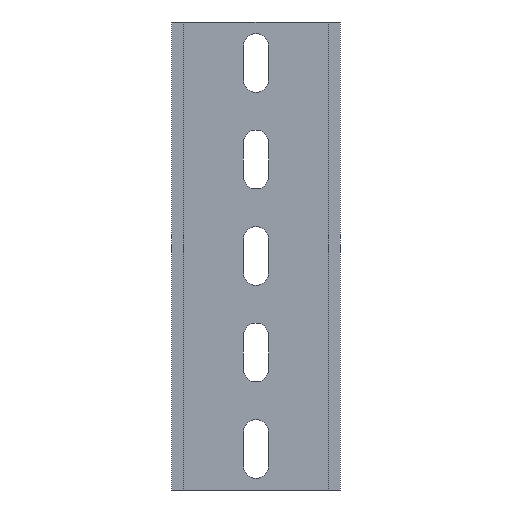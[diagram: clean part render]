
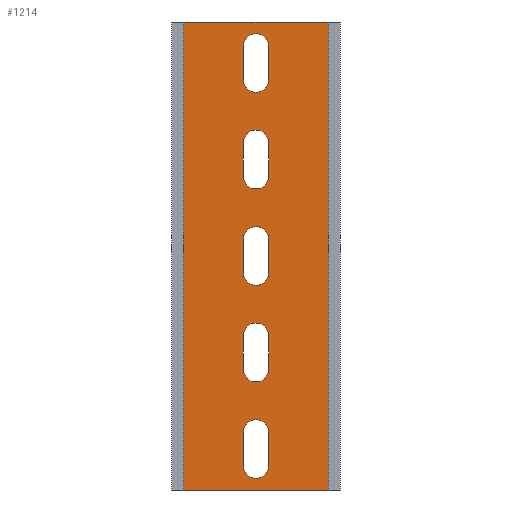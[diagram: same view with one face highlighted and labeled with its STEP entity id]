
A CAD part, front view. The second image highlights one B-rep face of the part: STEP entity #1214.
In plain terms, the highlighted planar face has unit normal (0, -1, 0).
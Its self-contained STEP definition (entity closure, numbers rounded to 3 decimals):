
#20=FACE_BOUND('',#174,.T.);
#21=FACE_BOUND('',#175,.T.);
#22=FACE_BOUND('',#176,.T.);
#23=FACE_BOUND('',#177,.T.);
#24=FACE_BOUND('',#178,.T.);
#25=CIRCLE('',#1258,2.6);
#27=CIRCLE('',#1262,2.6);
#29=CIRCLE('',#1266,2.6);
#31=CIRCLE('',#1270,2.6);
#33=CIRCLE('',#1274,2.6);
#35=CIRCLE('',#1278,2.6);
#41=CIRCLE('',#1287,2.6);
#43=CIRCLE('',#1291,2.6);
#45=CIRCLE('',#1295,2.6);
#47=CIRCLE('',#1299,2.6);
#108=FACE_OUTER_BOUND('',#173,.T.);
#173=EDGE_LOOP('',(#997,#998,#999,#1000));
#174=EDGE_LOOP('',(#1001,#1002,#1003,#1004));
#175=EDGE_LOOP('',(#1005,#1006,#1007,#1008));
#176=EDGE_LOOP('',(#1009,#1010,#1011,#1012));
#177=EDGE_LOOP('',(#1013,#1014,#1015,#1016));
#178=EDGE_LOOP('',(#1017,#1018,#1019,#1020));
#197=LINE('',#1672,#343);
#202=LINE('',#1686,#348);
#205=LINE('',#1696,#351);
#210=LINE('',#1710,#356);
#213=LINE('',#1720,#359);
#218=LINE('',#1734,#364);
#235=LINE('',#1774,#381);
#255=LINE('',#1821,#401);
#260=LINE('',#1835,#406);
#263=LINE('',#1845,#409);
#268=LINE('',#1859,#414);
#309=LINE('',#1947,#455);
#310=LINE('',#1950,#456);
#311=LINE('',#1951,#457);
#343=VECTOR('',#1348,10.);
#348=VECTOR('',#1361,10.);
#351=VECTOR('',#1372,10.);
#356=VECTOR('',#1385,10.);
#359=VECTOR('',#1396,10.);
#364=VECTOR('',#1409,10.);
#381=VECTOR('',#1436,10.);
#401=VECTOR('',#1464,10.);
#406=VECTOR('',#1477,10.);
#409=VECTOR('',#1488,10.);
#414=VECTOR('',#1501,10.);
#455=VECTOR('',#1592,10.);
#456=VECTOR('',#1595,10.);
#457=VECTOR('',#1596,10.);
#489=VERTEX_POINT('',#1670);
#490=VERTEX_POINT('',#1671);
#493=VERTEX_POINT('',#1679);
#495=VERTEX_POINT('',#1685);
#497=VERTEX_POINT('',#1694);
#498=VERTEX_POINT('',#1695);
#501=VERTEX_POINT('',#1703);
#503=VERTEX_POINT('',#1709);
#505=VERTEX_POINT('',#1718);
#506=VERTEX_POINT('',#1719);
#509=VERTEX_POINT('',#1727);
#511=VERTEX_POINT('',#1733);
#528=VERTEX_POINT('',#1771);
#529=VERTEX_POINT('',#1773);
#551=VERTEX_POINT('',#1819);
#552=VERTEX_POINT('',#1820);
#555=VERTEX_POINT('',#1828);
#557=VERTEX_POINT('',#1834);
#559=VERTEX_POINT('',#1843);
#560=VERTEX_POINT('',#1844);
#563=VERTEX_POINT('',#1852);
#565=VERTEX_POINT('',#1858);
#587=VERTEX_POINT('',#1945);
#588=VERTEX_POINT('',#1949);
#605=EDGE_CURVE('',#489,#490,#197,.T.);
#609=EDGE_CURVE('',#490,#493,#25,.T.);
#612=EDGE_CURVE('',#493,#495,#202,.T.);
#615=EDGE_CURVE('',#495,#489,#27,.T.);
#617=EDGE_CURVE('',#497,#498,#205,.T.);
#621=EDGE_CURVE('',#498,#501,#29,.T.);
#624=EDGE_CURVE('',#501,#503,#210,.T.);
#627=EDGE_CURVE('',#503,#497,#31,.T.);
#629=EDGE_CURVE('',#505,#506,#213,.T.);
#633=EDGE_CURVE('',#506,#509,#33,.T.);
#636=EDGE_CURVE('',#509,#511,#218,.T.);
#639=EDGE_CURVE('',#511,#505,#35,.T.);
#656=EDGE_CURVE('',#528,#529,#235,.T.);
#679=EDGE_CURVE('',#551,#552,#255,.T.);
#683=EDGE_CURVE('',#552,#555,#41,.T.);
#686=EDGE_CURVE('',#555,#557,#260,.T.);
#689=EDGE_CURVE('',#557,#551,#43,.T.);
#691=EDGE_CURVE('',#559,#560,#263,.T.);
#695=EDGE_CURVE('',#560,#563,#45,.T.);
#698=EDGE_CURVE('',#563,#565,#268,.T.);
#701=EDGE_CURVE('',#565,#559,#47,.T.);
#743=EDGE_CURVE('',#587,#529,#309,.T.);
#744=EDGE_CURVE('',#588,#587,#310,.T.);
#745=EDGE_CURVE('',#588,#528,#311,.T.);
#997=ORIENTED_EDGE('',*,*,#744,.T.);
#998=ORIENTED_EDGE('',*,*,#743,.T.);
#999=ORIENTED_EDGE('',*,*,#656,.F.);
#1000=ORIENTED_EDGE('',*,*,#745,.F.);
#1001=ORIENTED_EDGE('',*,*,#605,.T.);
#1002=ORIENTED_EDGE('',*,*,#609,.T.);
#1003=ORIENTED_EDGE('',*,*,#612,.T.);
#1004=ORIENTED_EDGE('',*,*,#615,.T.);
#1005=ORIENTED_EDGE('',*,*,#617,.T.);
#1006=ORIENTED_EDGE('',*,*,#621,.T.);
#1007=ORIENTED_EDGE('',*,*,#624,.T.);
#1008=ORIENTED_EDGE('',*,*,#627,.T.);
#1009=ORIENTED_EDGE('',*,*,#629,.T.);
#1010=ORIENTED_EDGE('',*,*,#633,.T.);
#1011=ORIENTED_EDGE('',*,*,#636,.T.);
#1012=ORIENTED_EDGE('',*,*,#639,.T.);
#1013=ORIENTED_EDGE('',*,*,#679,.T.);
#1014=ORIENTED_EDGE('',*,*,#683,.T.);
#1015=ORIENTED_EDGE('',*,*,#686,.T.);
#1016=ORIENTED_EDGE('',*,*,#689,.T.);
#1017=ORIENTED_EDGE('',*,*,#691,.T.);
#1018=ORIENTED_EDGE('',*,*,#695,.T.);
#1019=ORIENTED_EDGE('',*,*,#698,.T.);
#1020=ORIENTED_EDGE('',*,*,#701,.T.);
#1156=PLANE('',#1323);
#1214=ADVANCED_FACE('',(#108,#20,#21,#22,#23,#24),#1156,.T.);
#1258=AXIS2_PLACEMENT_3D('',#1680,#1354,#1355);
#1262=AXIS2_PLACEMENT_3D('',#1691,#1366,#1367);
#1266=AXIS2_PLACEMENT_3D('',#1704,#1378,#1379);
#1270=AXIS2_PLACEMENT_3D('',#1715,#1390,#1391);
#1274=AXIS2_PLACEMENT_3D('',#1728,#1402,#1403);
#1278=AXIS2_PLACEMENT_3D('',#1739,#1414,#1415);
#1287=AXIS2_PLACEMENT_3D('',#1829,#1470,#1471);
#1291=AXIS2_PLACEMENT_3D('',#1840,#1482,#1483);
#1295=AXIS2_PLACEMENT_3D('',#1853,#1494,#1495);
#1299=AXIS2_PLACEMENT_3D('',#1864,#1506,#1507);
#1323=AXIS2_PLACEMENT_3D('',#1948,#1593,#1594);
#1348=DIRECTION('',(0.,0.,-1.));
#1354=DIRECTION('center_axis',(0.,1.,0.));
#1355=DIRECTION('ref_axis',(1.,0.,0.));
#1361=DIRECTION('',(0.,0.,1.));
#1366=DIRECTION('center_axis',(0.,1.,0.));
#1367=DIRECTION('ref_axis',(-1.,0.,0.));
#1372=DIRECTION('',(0.,0.,-1.));
#1378=DIRECTION('center_axis',(0.,1.,0.));
#1379=DIRECTION('ref_axis',(1.,0.,0.));
#1385=DIRECTION('',(0.,0.,1.));
#1390=DIRECTION('center_axis',(0.,1.,0.));
#1391=DIRECTION('ref_axis',(-1.,0.,0.));
#1396=DIRECTION('',(0.,0.,-1.));
#1402=DIRECTION('center_axis',(0.,1.,0.));
#1403=DIRECTION('ref_axis',(1.,0.,0.));
#1409=DIRECTION('',(0.,0.,1.));
#1414=DIRECTION('center_axis',(0.,1.,0.));
#1415=DIRECTION('ref_axis',(-1.,0.,0.));
#1436=DIRECTION('',(1.,0.,0.));
#1464=DIRECTION('',(0.,0.,-1.));
#1470=DIRECTION('center_axis',(0.,1.,0.));
#1471=DIRECTION('ref_axis',(1.,0.,0.));
#1477=DIRECTION('',(0.,0.,1.));
#1482=DIRECTION('center_axis',(0.,1.,0.));
#1483=DIRECTION('ref_axis',(-1.,0.,0.));
#1488=DIRECTION('',(0.,0.,-1.));
#1494=DIRECTION('center_axis',(0.,1.,0.));
#1495=DIRECTION('ref_axis',(1.,0.,0.));
#1501=DIRECTION('',(0.,0.,1.));
#1506=DIRECTION('center_axis',(0.,1.,0.));
#1507=DIRECTION('ref_axis',(-1.,0.,0.));
#1592=DIRECTION('',(0.,0.,1.));
#1593=DIRECTION('center_axis',(0.,-1.,0.));
#1594=DIRECTION('ref_axis',(1.,0.,0.));
#1595=DIRECTION('',(1.,0.,0.));
#1596=DIRECTION('',(0.,0.,1.));
#1670=CARTESIAN_POINT('',(2.6,0.,92.));
#1671=CARTESIAN_POINT('',(2.6,0.,85.));
#1672=CARTESIAN_POINT('',(2.6,0.,42.5));
#1679=CARTESIAN_POINT('',(-2.6,0.,85.));
#1680=CARTESIAN_POINT('Origin',(0.,0.,
85.));
#1685=CARTESIAN_POINT('',(-2.6,0.,92.));
#1686=CARTESIAN_POINT('',(-2.6,0.,46.));
#1691=CARTESIAN_POINT('Origin',(0.,0.,
92.));
#1694=CARTESIAN_POINT('',(2.6,0.,72.));
#1695=CARTESIAN_POINT('',(2.6,0.,65.));
#1696=CARTESIAN_POINT('',(2.6,0.,32.5));
#1703=CARTESIAN_POINT('',(-2.6,0.,65.));
#1704=CARTESIAN_POINT('Origin',(0.,0.,
65.));
#1709=CARTESIAN_POINT('',(-2.6,0.,72.));
#1710=CARTESIAN_POINT('',(-2.6,0.,36.));
#1715=CARTESIAN_POINT('Origin',(0.,0.,
72.));
#1718=CARTESIAN_POINT('',(2.6,0.,52.));
#1719=CARTESIAN_POINT('',(2.6,0.,45.));
#1720=CARTESIAN_POINT('',(2.6,0.,22.5));
#1727=CARTESIAN_POINT('',(-2.6,0.,45.));
#1728=CARTESIAN_POINT('Origin',(0.,0.,
45.));
#1733=CARTESIAN_POINT('',(-2.6,0.,52.));
#1734=CARTESIAN_POINT('',(-2.6,0.,26.));
#1739=CARTESIAN_POINT('Origin',(0.,0.,
52.));
#1771=CARTESIAN_POINT('',(-15.,0.,97.));
#1773=CARTESIAN_POINT('',(15.,0.,97.));
#1774=CARTESIAN_POINT('',(-15.,0.,97.));
#1819=CARTESIAN_POINT('',(2.6,0.,32.));
#1820=CARTESIAN_POINT('',(2.6,0.,25.));
#1821=CARTESIAN_POINT('',(2.6,0.,12.5));
#1828=CARTESIAN_POINT('',(-2.6,0.,25.));
#1829=CARTESIAN_POINT('Origin',(0.,0.,
25.));
#1834=CARTESIAN_POINT('',(-2.6,0.,32.));
#1835=CARTESIAN_POINT('',(-2.6,0.,16.));
#1840=CARTESIAN_POINT('Origin',(0.,0.,
32.));
#1843=CARTESIAN_POINT('',(2.6,0.,12.));
#1844=CARTESIAN_POINT('',(2.6,0.,5.));
#1845=CARTESIAN_POINT('',(2.6,0.,2.5));
#1852=CARTESIAN_POINT('',(-2.6,0.,5.));
#1853=CARTESIAN_POINT('Origin',(0.,0.,
5.));
#1858=CARTESIAN_POINT('',(-2.6,0.,12.));
#1859=CARTESIAN_POINT('',(-2.6,0.,6.));
#1864=CARTESIAN_POINT('Origin',(0.,0.,
12.));
#1945=CARTESIAN_POINT('',(15.,0.,0.));
#1947=CARTESIAN_POINT('',(15.,0.,0.));
#1948=CARTESIAN_POINT('Origin',(-15.,0.,0.));
#1949=CARTESIAN_POINT('',(-15.,0.,0.));
#1950=CARTESIAN_POINT('',(-15.,0.,0.));
#1951=CARTESIAN_POINT('',(-15.,0.,0.));
